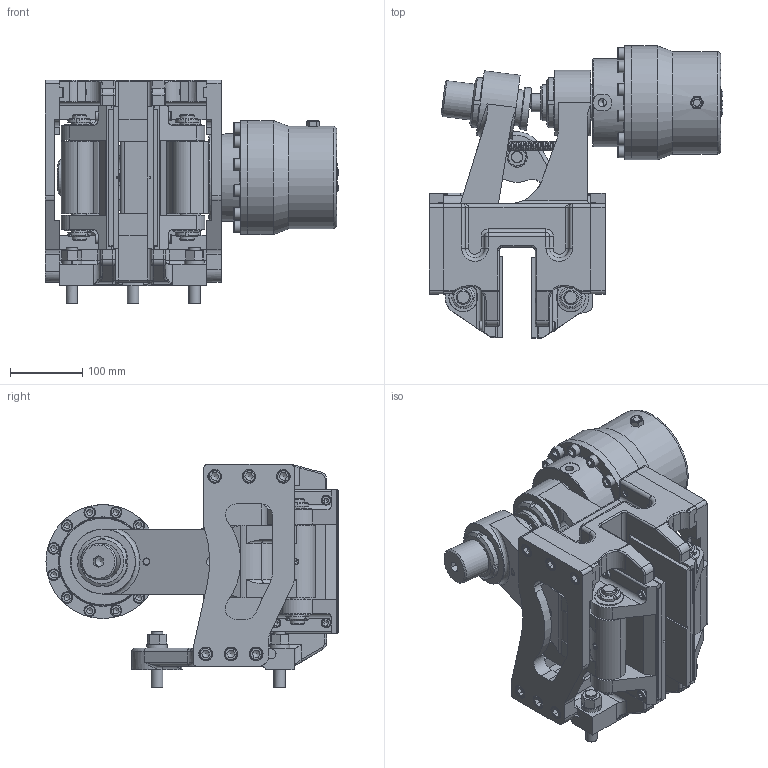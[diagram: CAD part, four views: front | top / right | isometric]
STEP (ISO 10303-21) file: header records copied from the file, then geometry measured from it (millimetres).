
FILE_DESCRIPTION(/* description */ ('','CAx-IF Rec.Pracs.---Representation and Presentation of Product Manufacturing Information (PMI)---4.0---2014-10-13'),/* implementation_level */ '2;1');
FILE_NAME(/* name */ 'X:\INVENTOR\DISEGNI\19_Pinze\STEP x Sito\OLEO-NEGATIVE\19_46_064_06 POT-N064_40.stp',/* time_stamp */ '2018-10-26T08:11:34+02:00',/* author */ ('stefano'),/* organization */ (''),/* preprocessor_version */ 'ST-DEVELOPER v17',/* originating_system */ 'Autodesk Inventor 2018',/* authorisation */ '');
FILE_SCHEMA (('AP242_MANAGED_MODEL_BASED_3D_ENGINEERING_MIM_LF { 1 0 10303 442 1 1 4 }'));
Products named in the file (1): 19_46_064_06 POT-N064_40_Substitute_3
Bounding box: 407.3 x 405 x 310 mm (x, y, z)
Volume: 10131562.4 mm3; surface area: 1182503.8 mm2
Topology: 1 solids, 1 shells, 1803 faces, 4958 edges, 3220 vertices
Faces by surface type: plane 890, cylinder 507, cone 177, torus 174, bspline 35, sphere 20
Full cylindrical faces by diameter (mm): 1.8 x2, 2.5 x2, 4.917 x1, 5 x1, 7.4 x2, 7.5 x2, 7.6 x3, 8 x9, 8.376 x1, 8.5 x8, 8.917 x2, 9 x2, 9.188 x1, 10 x3, 10.106 x9, 10.5 x5, 10.647 x2, 11.445 x2, 12 x12, 12.5 x12, 13 x8, 13.157 x1, 13.5 x8, 14 x1, 16 x18, 16.5 x4, 17 x3, 18 x13, 19 x12, 19.5 x11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
Entity records: 67738 total; most frequent: CARTESIAN_POINT 20129, ORIENTED_EDGE 9772, DIRECTION 9768, EDGE_CURVE 4886, AXIS2_PLACEMENT_3D 3745, VERTEX_POINT 3220, LINE 2278, VECTOR 2278
